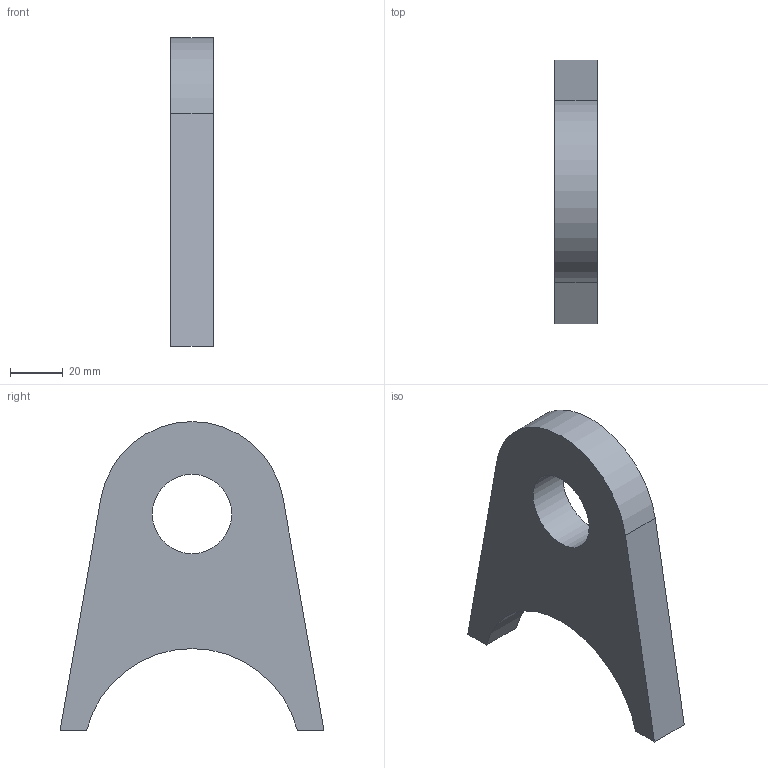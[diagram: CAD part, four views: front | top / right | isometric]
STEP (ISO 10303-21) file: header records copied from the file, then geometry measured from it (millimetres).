
FILE_DESCRIPTION(('STEP AP203'), '1');
FILE_NAME('ﾓ _ ﾐ飼璢 Lemken ID_39152 (4367460).02', '', ('UNSPECIFIED'), ('UNSPECIFIED'), 'C3D Converter', 'C3D Toolkit', '');
FILE_SCHEMA(('CONFIG_CONTROL_DESIGN'));
Length unit declared in the file: millimetre
Products named in the file (1): Рычаг Lemken ID_39152 (4367460).02
Bounding box: 16 x 100 x 117.01 mm (x, y, z)
Volume: 102328.9 mm3; surface area: 20791.2 mm2
Topology: 1 solids, 1 shells, 9 faces, 21 edges, 14 vertices
Faces by surface type: plane 6, cylinder 3
Full cylindrical faces by diameter (mm): 30.05 x1
Entity records: 372 total; most frequent: DIRECTION 46, CARTESIAN_POINT 44, ORIENTED_EDGE 40, EDGE_CURVE 20, AXIS2_PLACEMENT_3D 16, VERTEX_POINT 14, LINE 14, VECTOR 14
